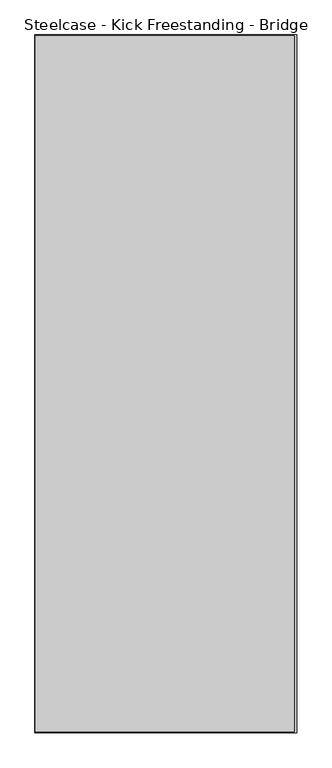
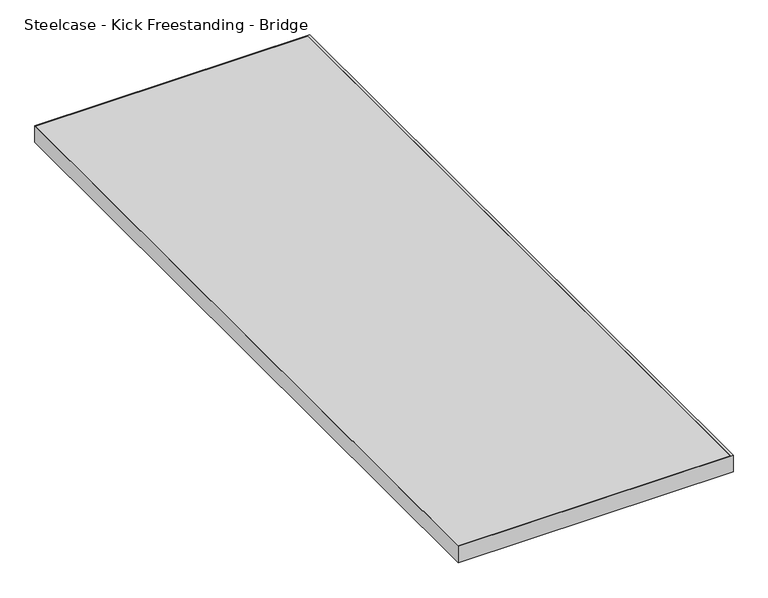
"""IFC4 building model written with IfcOpenShell, lengths in millimetres: furniture geometry, Steelcase - Kick Freestanding - Bridge : 18D x 48W."""

from ifc_helpers import new_model, si_unit, frame, origin, place, context, project, spatial, polyline, outline, extrude, source, transform, mapped, element, save


def steelcase_kick_freestanding_bridge_6f834177(model_context):
    return source(origin(), model_context, "Body", "SweptSolid", [
        extrude(outline(polyline([(2616.8176592, -548.0845152), (2616.8176592, -1764.7445152), (2164.8500425, -1764.7445152), (2164.8500425, -548.0845152), (2616.8176592, -548.0845152)])), frame((0.0, 0.0, 682.244), z_axis=(0.0, 0.0, 1.0), x_axis=(1.0, 0.0, 0.0)), (0.0, 0.0, 1.0), 28.956),
        extrude(outline(polyline([(2621.0594425, -546.8145152), (2621.0594425, -1766.0145152), (2163.8594425, -1766.0145152), (2163.8594425, -546.8145152), (2621.0594425, -546.8145152)]), holes=[polyline([(2616.8176592, -548.0845152), (2164.8500425, -548.0845152), (2164.8500425, -1764.7445152), (2616.8176592, -1764.7445152), (2616.8176592, -548.0845152)])]), frame((0.0, 0.0, 682.244), z_axis=(0.0, 0.0, 1.0), x_axis=(1.0, 0.0, 0.0)), (0.0, 0.0, 1.0), 28.956),
    ])


if __name__ == "__main__":
    model = new_model("IFC4")
    model_context = context("Model", 3, world=origin())
    ifc_project = project(units=[si_unit("LENGTHUNIT", "METRE", prefix="MILLI")], contexts=[model_context])
    site = spatial("IfcSite", under=ifc_project)
    building = spatial("IfcBuilding", under=site)
    placement = place(None, origin())
    steelcase_kick_freestanding_bridge_shape = steelcase_kick_freestanding_bridge_6f834177(model_context)
    element("IfcFurniture", 1, ObjectType="Steelcase - Kick Freestanding - Bridge : 18D x 48W", at=placement, inside=building, context=model_context, shape_type="MappedRepresentation", body=[
        mapped(steelcase_kick_freestanding_bridge_shape, transform((0.0, 0.0, 0.0), x_axis=(1.0, 0.0, 0.0), y_axis=(0.0, 1.0, 0.0), z_axis=(0.0, 0.0, 1.0))),
    ])
    save(model, "model.ifc")
